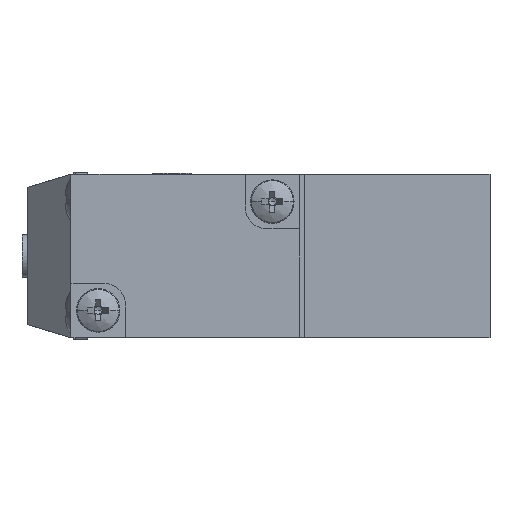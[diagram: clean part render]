
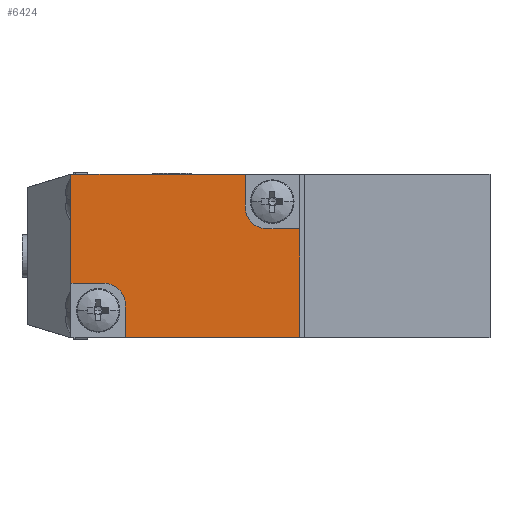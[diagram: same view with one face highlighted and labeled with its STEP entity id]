
A CAD part, left-side view. The second image highlights one B-rep face of the part: STEP entity #6424.
In plain terms, the highlighted planar face has unit normal (-1, 0, 0).
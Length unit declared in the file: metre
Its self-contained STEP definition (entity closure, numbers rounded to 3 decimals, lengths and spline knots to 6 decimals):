
#966 = CARTESIAN_POINT ( 'NONE',  ( -0.009, 0.021, 0. ) ) ;
#1085 = VERTEX_POINT ( 'NONE', #3376 ) ;
#1182 = LINE ( 'NONE', #9750, #4047 ) ;
#1186 = DIRECTION ( 'NONE',  ( 0., 0., -1. ) ) ;
#1344 = VERTEX_POINT ( 'NONE', #1462 ) ;
#1429 = CARTESIAN_POINT ( 'NONE',  ( -0.009, 0.005, 0.006 ) ) ;
#1462 = CARTESIAN_POINT ( 'NONE',  ( -0.009, 0.018, -0.0025 ) ) ;
#1525 = ORIENTED_EDGE ( 'NONE', *, *, #3141, .F. ) ;
#1896 = PLANE ( 'NONE',  #10320 ) ;
#1982 = CARTESIAN_POINT ( 'NONE',  ( -0.009, 0., 0.0075 ) ) ;
#2002 = DIRECTION ( 'NONE',  ( 1., 0., 0. ) ) ;
#2014 = CARTESIAN_POINT ( 'NONE',  ( -0.009, 0.0105, 0.0075 ) ) ;
#2029 = DIRECTION ( 'NONE',  ( 0., 0., -1. ) ) ;
#2075 = LINE ( 'NONE', #12246, #12269 ) ;
#2473 = CARTESIAN_POINT ( 'NONE',  ( -0.009, 0.0015, 0.0025 ) ) ;
#2547 = DIRECTION ( 'NONE',  ( -1., 0., 0. ) ) ;
#2840 = DIRECTION ( 'NONE',  ( 0., 1., 0. ) ) ;
#2988 = CARTESIAN_POINT ( 'NONE',  ( -0.009, 0.018, -0.0045 ) ) ;
#3037 = DIRECTION ( 'NONE',  ( -1., 0., 0. ) ) ;
#3078 = DIRECTION ( 'NONE',  ( 0., 0., -1. ) ) ;
#3118 = VECTOR ( 'NONE', #3207, 1. ) ;
#3141 = EDGE_CURVE ( 'NONE', #7395, #6245, #2075, .T. ) ;
#3207 = DIRECTION ( 'NONE',  ( 0., 0., 1. ) ) ;
#3233 = CARTESIAN_POINT ( 'NONE',  ( -0.009, 0., 0. ) ) ;
#3376 = CARTESIAN_POINT ( 'NONE',  ( -0.009, 0.016, -0.0045 ) ) ;
#3468 = ORIENTED_EDGE ( 'NONE', *, *, #5992, .F. ) ;
#3994 = DIRECTION ( 'NONE',  ( 0., 1., 0. ) ) ;
#4007 = VECTOR ( 'NONE', #8152, 1. ) ;
#4047 = VECTOR ( 'NONE', #3994, 1. ) ;
#4120 = CARTESIAN_POINT ( 'NONE',  ( -0.009, 0.021, -0.0025 ) ) ;
#4235 = EDGE_CURVE ( 'NONE', #1085, #1344, #12311, .T. ) ;
#4346 = EDGE_LOOP ( 'NONE', ( #5864, #4514, #10493, #11694, #7504, #5879, #11550, #3468, #1525, #7536 ) ) ;
#4457 = DIRECTION ( 'NONE',  ( 0., 0., 1. ) ) ;
#4514 = ORIENTED_EDGE ( 'NONE', *, *, #9001, .F. ) ;
#4560 = VERTEX_POINT ( 'NONE', #6952 ) ;
#4934 = EDGE_CURVE ( 'NONE', #8484, #6608, #10498, .T. ) ;
#5341 = CARTESIAN_POINT ( 'NONE',  ( -0.009, 0., -0.0075 ) ) ;
#5747 = CARTESIAN_POINT ( 'NONE',  ( -0.009, 0.016, -0.0075 ) ) ;
#5864 = ORIENTED_EDGE ( 'NONE', *, *, #6499, .T. ) ;
#5879 = ORIENTED_EDGE ( 'NONE', *, *, #12021, .F. ) ;
#5983 = LINE ( 'NONE', #2473, #11360 ) ;
#5992 = EDGE_CURVE ( 'NONE', #6245, #1085, #10473, .T. ) ;
#6146 = VECTOR ( 'NONE', #9713, 1. ) ;
#6181 = VERTEX_POINT ( 'NONE', #12288 ) ;
#6245 = VERTEX_POINT ( 'NONE', #5747 ) ;
#6257 = AXIS2_PLACEMENT_3D ( 'NONE', #8329, #2547, #9285 ) ;
#6424 = ADVANCED_FACE ( 'NONE', ( #9437 ), #1896, .F. ) ;
#6499 = EDGE_CURVE ( 'NONE', #7488, #6181, #5983, .T. ) ;
#6538 = EDGE_CURVE ( 'NONE', #7395, #7488, #8525, .T. ) ;
#6567 = LINE ( 'NONE', #1429, #4007 ) ;
#6608 = VERTEX_POINT ( 'NONE', #4120 ) ;
#6952 = CARTESIAN_POINT ( 'NONE',  ( -0.009, 0.005, 0.0075 ) ) ;
#7055 = VERTEX_POINT ( 'NONE', #11821 ) ;
#7395 = VERTEX_POINT ( 'NONE', #5341 ) ;
#7488 = VERTEX_POINT ( 'NONE', #8653 ) ;
#7504 = ORIENTED_EDGE ( 'NONE', *, *, #4934, .T. ) ;
#7536 = ORIENTED_EDGE ( 'NONE', *, *, #6538, .T. ) ;
#7730 = AXIS2_PLACEMENT_3D ( 'NONE', #2988, #3037, #3078 ) ;
#8152 = DIRECTION ( 'NONE',  ( 0., 0., 1. ) ) ;
#8246 = VECTOR ( 'NONE', #4457, 1. ) ;
#8329 = CARTESIAN_POINT ( 'NONE',  ( -0.009, 0.003, 0.0045 ) ) ;
#8484 = VERTEX_POINT ( 'NONE', #9344 ) ;
#8525 = LINE ( 'NONE', #3233, #3118 ) ;
#8653 = CARTESIAN_POINT ( 'NONE',  ( -0.009, 0., 0.0025 ) ) ;
#9001 = EDGE_CURVE ( 'NONE', #7055, #6181, #11225, .T. ) ;
#9285 = DIRECTION ( 'NONE',  ( 0., 0., -1. ) ) ;
#9344 = CARTESIAN_POINT ( 'NONE',  ( -0.009, 0.021, 0.0075 ) ) ;
#9437 = FACE_OUTER_BOUND ( 'NONE', #4346, .T. ) ;
#9501 = EDGE_CURVE ( 'NONE', #4560, #8484, #11511, .T. ) ;
#9713 = DIRECTION ( 'NONE',  ( 0., 1., 0. ) ) ;
#9750 = CARTESIAN_POINT ( 'NONE',  ( -0.009, 0.0105, -0.0025 ) ) ;
#10206 = EDGE_CURVE ( 'NONE', #7055, #4560, #6567, .T. ) ;
#10320 = AXIS2_PLACEMENT_3D ( 'NONE', #1982, #2002, #2029 ) ;
#10473 = LINE ( 'NONE', #11135, #8246 ) ;
#10493 = ORIENTED_EDGE ( 'NONE', *, *, #10206, .T. ) ;
#10498 = LINE ( 'NONE', #966, #11101 ) ;
#11101 = VECTOR ( 'NONE', #1186, 1. ) ;
#11135 = CARTESIAN_POINT ( 'NONE',  ( -0.009, 0.016, 0. ) ) ;
#11225 = CIRCLE ( 'NONE', #6257, 0.002 ) ;
#11360 = VECTOR ( 'NONE', #2840, 1. ) ;
#11511 = LINE ( 'NONE', #2014, #6146 ) ;
#11550 = ORIENTED_EDGE ( 'NONE', *, *, #4235, .F. ) ;
#11694 = ORIENTED_EDGE ( 'NONE', *, *, #9501, .T. ) ;
#11821 = CARTESIAN_POINT ( 'NONE',  ( -0.009, 0.005, 0.0045 ) ) ;
#12021 = EDGE_CURVE ( 'NONE', #1344, #6608, #1182, .T. ) ;
#12246 = CARTESIAN_POINT ( 'NONE',  ( -0.009, 0.0105, -0.0075 ) ) ;
#12269 = VECTOR ( 'NONE', #12296, 1. ) ;
#12288 = CARTESIAN_POINT ( 'NONE',  ( -0.009, 0.003, 0.0025 ) ) ;
#12296 = DIRECTION ( 'NONE',  ( 0., 1., 0. ) ) ;
#12311 = CIRCLE ( 'NONE', #7730, 0.002 ) ;
